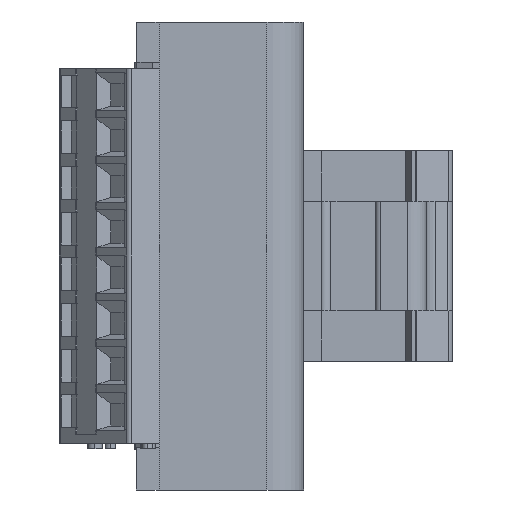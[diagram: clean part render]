
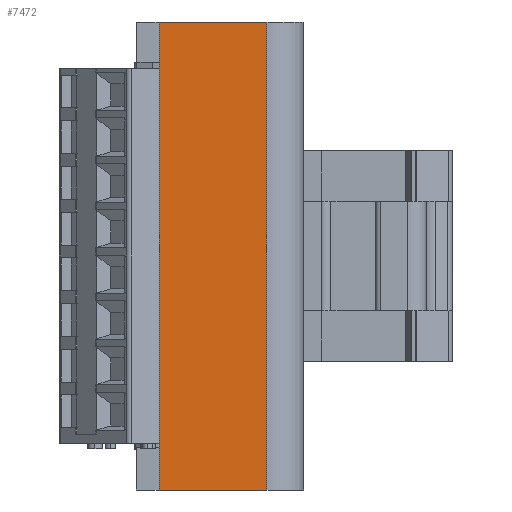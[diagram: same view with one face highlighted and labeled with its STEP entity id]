
A CAD part, left-side view. The second image highlights one B-rep face of the part: STEP entity #7472.
In plain terms, the highlighted planar face has unit normal (-1, 0, 0).
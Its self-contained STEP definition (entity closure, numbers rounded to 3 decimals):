
#6420=PLANE('',#29721);
#7472=ADVANCED_FACE('F1',(#8999),#6420,.T.);
#8999=FACE_OUTER_BOUND('',#10247,.T.);
#10247=EDGE_LOOP('',(#17916,#17917,#17918,#17919));
#11785=LINE('',#39372,#14421);
#11786=LINE('',#39374,#14422);
#11787=LINE('',#39376,#14423);
#11788=LINE('',#39378,#14424);
#14421=VECTOR('',#32280,1.);
#14422=VECTOR('',#32283,1.);
#14423=VECTOR('',#32284,1.);
#14424=VECTOR('',#32285,1.);
#17916=ORIENTED_EDGE('',*,*,#26172,.T.);
#17917=ORIENTED_EDGE('',*,*,#26171,.T.);
#17918=ORIENTED_EDGE('',*,*,#26173,.T.);
#17919=ORIENTED_EDGE('',*,*,#26174,.F.);
#23773=VERTEX_POINT('',#39369);
#23774=VERTEX_POINT('',#39371);
#23775=VERTEX_POINT('',#39375);
#23776=VERTEX_POINT('',#39377);
#26171=EDGE_CURVE('E2',#23773,#23774,#11785,.T.);
#26172=EDGE_CURVE('E1',#23775,#23773,#11786,.T.);
#26173=EDGE_CURVE('',#23774,#23776,#11787,.T.);
#26174=EDGE_CURVE('E4',#23775,#23776,#11788,.T.);
#29721=AXIS2_PLACEMENT_3D('',#39379,#32286,#32287);
#32280=DIRECTION('',(0.,0.,1.));
#32283=DIRECTION('',(0.,-1.,0.));
#32284=DIRECTION('',(0.,1.,0.));
#32285=DIRECTION('',(0.,0.,1.));
#32286=DIRECTION('',(-1.,0.,0.));
#32287=DIRECTION('',(0.,-1.,0.));
#39369=CARTESIAN_POINT('',(-48.,4.,0.));
#39371=CARTESIAN_POINT('',(-48.,4.,51.2));
#39372=CARTESIAN_POINT('',(-48.,4.,6.4));
#39374=CARTESIAN_POINT('',(-48.,9.9,0.));
#39375=CARTESIAN_POINT('',(-48.,15.8,0.));
#39376=CARTESIAN_POINT('',(-48.,9.9,51.2));
#39377=CARTESIAN_POINT('',(-48.,15.8,51.2));
#39378=CARTESIAN_POINT('',(-48.,15.8,6.4));
#39379=CARTESIAN_POINT('',(-48.,15.8,0.));
